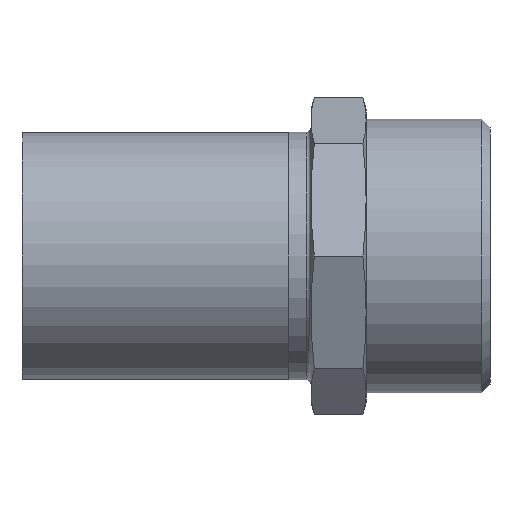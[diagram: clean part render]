
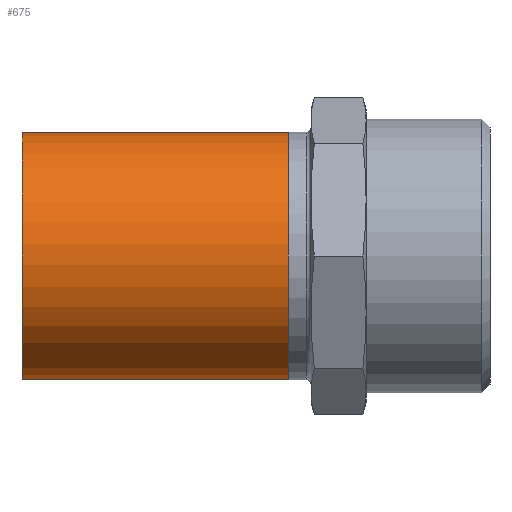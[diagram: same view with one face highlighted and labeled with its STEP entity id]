
A CAD part, front view. The second image highlights one B-rep face of the part: STEP entity #675.
In plain terms, the highlighted cylindrical face has radius 27 mm (diameter 54 mm), a partial arc.
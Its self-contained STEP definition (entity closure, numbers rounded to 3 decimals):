
#30 = AXIS2_PLACEMENT_3D ( 'NONE', #1014, #1553, #469 ) ;
#131 = CYLINDRICAL_SURFACE ( 'NONE', #865, 27. ) ;
#136 = CARTESIAN_POINT ( 'NONE',  ( -27., 0., 58. ) ) ;
#145 = ORIENTED_EDGE ( 'NONE', *, *, #821, .T. ) ;
#172 = LINE ( 'NONE', #136, #532 ) ;
#177 = LINE ( 'NONE', #657, #776 ) ;
#236 = VERTEX_POINT ( 'NONE', #1681 ) ;
#275 = ORIENTED_EDGE ( 'NONE', *, *, #567, .T. ) ;
#421 = AXIS2_PLACEMENT_3D ( 'NONE', #601, #747, #1297 ) ;
#427 = CARTESIAN_POINT ( 'NONE',  ( 27., 0., 0. ) ) ;
#459 = VERTEX_POINT ( 'NONE', #1478 ) ;
#463 = EDGE_LOOP ( 'NONE', ( #513, #857, #275, #145 ) ) ;
#469 = DIRECTION ( 'NONE',  ( 1., 0., 0. ) ) ;
#507 = VERTEX_POINT ( 'NONE', #524 ) ;
#511 = EDGE_CURVE ( 'NONE', #236, #658, #177, .T. ) ;
#513 = ORIENTED_EDGE ( 'NONE', *, *, #511, .F. ) ;
#524 = CARTESIAN_POINT ( 'NONE',  ( -27., 0., 0. ) ) ;
#532 = VECTOR ( 'NONE', #1377, 1000. ) ;
#560 = DIRECTION ( 'NONE',  ( 0., 0., -1. ) ) ;
#567 = EDGE_CURVE ( 'NONE', #459, #507, #172, .T. ) ;
#601 = CARTESIAN_POINT ( 'NONE',  ( 0., 0., 58. ) ) ;
#657 = CARTESIAN_POINT ( 'NONE',  ( 27., 0., 58. ) ) ;
#658 = VERTEX_POINT ( 'NONE', #427 ) ;
#675 = ADVANCED_FACE ( 'NONE', ( #1536 ), #131, .T. ) ;
#747 = DIRECTION ( 'NONE',  ( 0., 0., 1. ) ) ;
#776 = VECTOR ( 'NONE', #1720, 1000. ) ;
#821 = EDGE_CURVE ( 'NONE', #507, #658, #1497, .T. ) ;
#857 = ORIENTED_EDGE ( 'NONE', *, *, #1191, .F. ) ;
#865 = AXIS2_PLACEMENT_3D ( 'NONE', #1379, #560, #1245 ) ;
#1014 = CARTESIAN_POINT ( 'NONE',  ( 0., 0., 0. ) ) ;
#1191 = EDGE_CURVE ( 'NONE', #459, #236, #1576, .T. ) ;
#1245 = DIRECTION ( 'NONE',  ( -1., 0., 0. ) ) ;
#1297 = DIRECTION ( 'NONE',  ( 1., 0., 0. ) ) ;
#1377 = DIRECTION ( 'NONE',  ( 0., 0., -1. ) ) ;
#1379 = CARTESIAN_POINT ( 'NONE',  ( 0., 0., 58. ) ) ;
#1478 = CARTESIAN_POINT ( 'NONE',  ( -27., 0., 58. ) ) ;
#1497 = CIRCLE ( 'NONE', #30, 27. ) ;
#1536 = FACE_OUTER_BOUND ( 'NONE', #463, .T. ) ;
#1553 = DIRECTION ( 'NONE',  ( 0., 0., 1. ) ) ;
#1576 = CIRCLE ( 'NONE', #421, 27. ) ;
#1681 = CARTESIAN_POINT ( 'NONE',  ( 27., 0., 58. ) ) ;
#1720 = DIRECTION ( 'NONE',  ( 0., 0., -1. ) ) ;
